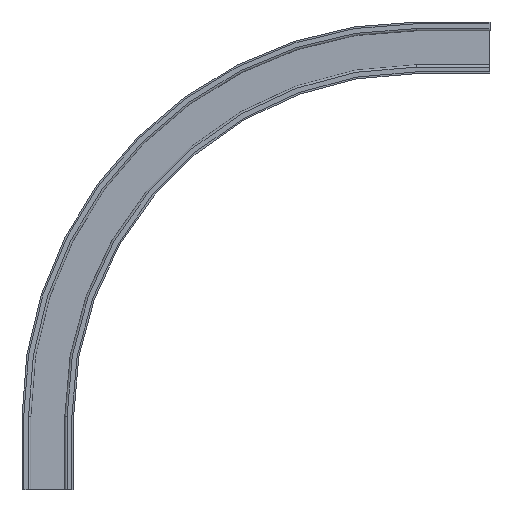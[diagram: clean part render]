
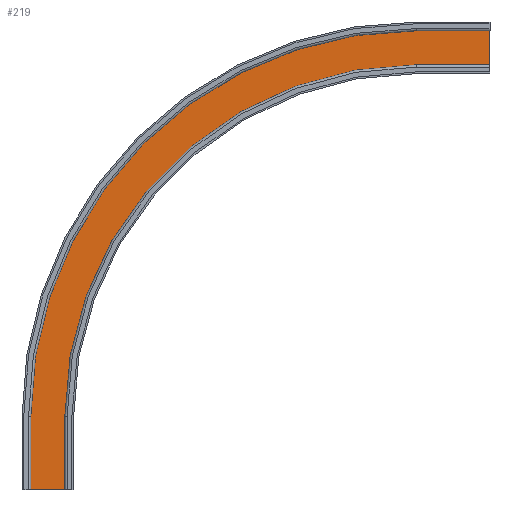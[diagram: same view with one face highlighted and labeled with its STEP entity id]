
A CAD part, front view. The second image highlights one B-rep face of the part: STEP entity #219.
In plain terms, the highlighted planar face has unit normal (0, -1, 0).
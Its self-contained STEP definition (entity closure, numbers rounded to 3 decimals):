
#219 = ADVANCED_FACE ( 'NONE', ( #6780 ), #1621, .F. ) ;
#578 = EDGE_CURVE ( 'NONE', #3233, #3170, #6594, .T. ) ;
#604 = EDGE_CURVE ( 'NONE', #3167, #3217, #6548, .T. ) ;
#608 = EDGE_CURVE ( 'NONE', #3136, #3163, #6540, .T. ) ;
#610 = EDGE_CURVE ( 'NONE', #3229, #3238, #6535, .T. ) ;
#616 = EDGE_CURVE ( 'NONE', #3170, #3229, #6524, .T. ) ;
#620 = EDGE_CURVE ( 'NONE', #3167, #3163, #6516, .T. ) ;
#660 = AXIS2_PLACEMENT_3D ( 'NONE', #1592, #1590, #1647 ) ;
#707 = AXIS2_PLACEMENT_3D ( 'NONE', #2905, #2904, #2902 ) ;
#719 = AXIS2_PLACEMENT_3D ( 'NONE', #2623, #2648, #2622 ) ;
#911 = CARTESIAN_POINT ( 'NONE',  ( -474.889, 246.202, 155.327 ) ) ;
#912 = DIRECTION ( 'NONE',  ( 0., 0., -1. ) ) ;
#1590 = DIRECTION ( 'NONE',  ( 0., 1., 0. ) ) ;
#1592 = CARTESIAN_POINT ( 'NONE',  ( -474.889, 246.202, 155.327 ) ) ;
#1621 = PLANE ( 'NONE',  #660 ) ;
#1647 = DIRECTION ( 'NONE',  ( -1., 0., 0. ) ) ;
#2018 = EDGE_CURVE ( 'NONE', #3217, #3238, #2419, .T. ) ;
#2221 = VECTOR ( 'NONE', #912, 1000. ) ;
#2222 = LINE ( 'NONE', #911, #2221 ) ;
#2418 = VECTOR ( 'NONE', #3796, 1000. ) ;
#2419 = LINE ( 'NONE', #3797, #2418 ) ;
#2622 = DIRECTION ( 'NONE',  ( 0., 0., 1. ) ) ;
#2623 = CARTESIAN_POINT ( 'NONE',  ( 54.611, 246.202, 155.327 ) ) ;
#2636 = DIRECTION ( 'NONE',  ( 1., 0., 0. ) ) ;
#2639 = CARTESIAN_POINT ( 'NONE',  ( 154.611, 246.202, 684.827 ) ) ;
#2648 = DIRECTION ( 'NONE',  ( 0., 1., 0. ) ) ;
#2653 = DIRECTION ( 'NONE',  ( 1., 0., 0. ) ) ;
#2655 = CARTESIAN_POINT ( 'NONE',  ( -474.889, 246.202, 55.327 ) ) ;
#2682 = DIRECTION ( 'NONE',  ( 0., 0., -1. ) ) ;
#2778 = CARTESIAN_POINT ( 'NONE',  ( -415.889, 246.202, 155.327 ) ) ;
#2779 = DIRECTION ( 'NONE',  ( 0., 0., -1. ) ) ;
#2902 = DIRECTION ( 'NONE',  ( 0., 0., 1. ) ) ;
#2904 = DIRECTION ( 'NONE',  ( 0., 1., 0. ) ) ;
#2905 = CARTESIAN_POINT ( 'NONE',  ( 54.611, 246.202, 155.327 ) ) ;
#2908 = CARTESIAN_POINT ( 'NONE',  ( 54.611, 246.202, 684.827 ) ) ;
#3136 = VERTEX_POINT ( 'NONE', #3500 ) ;
#3163 = VERTEX_POINT ( 'NONE', #3472 ) ;
#3167 = VERTEX_POINT ( 'NONE', #3466 ) ;
#3170 = VERTEX_POINT ( 'NONE', #3463 ) ;
#3217 = VERTEX_POINT ( 'NONE', #3413 ) ;
#3229 = VERTEX_POINT ( 'NONE', #3400 ) ;
#3233 = VERTEX_POINT ( 'NONE', #3396 ) ;
#3238 = VERTEX_POINT ( 'NONE', #3391 ) ;
#3391 = CARTESIAN_POINT ( 'NONE',  ( 154.611, 246.202, 625.827 ) ) ;
#3396 = CARTESIAN_POINT ( 'NONE',  ( -474.889, 246.202, 155.327 ) ) ;
#3400 = CARTESIAN_POINT ( 'NONE',  ( 154.611, 246.202, 684.827 ) ) ;
#3413 = CARTESIAN_POINT ( 'NONE',  ( 54.611, 246.202, 625.827 ) ) ;
#3463 = CARTESIAN_POINT ( 'NONE',  ( 54.611, 246.202, 684.827 ) ) ;
#3466 = CARTESIAN_POINT ( 'NONE',  ( -415.889, 246.202, 155.327 ) ) ;
#3472 = CARTESIAN_POINT ( 'NONE',  ( -415.889, 246.202, 55.327 ) ) ;
#3500 = CARTESIAN_POINT ( 'NONE',  ( -474.889, 246.202, 55.327 ) ) ;
#3796 = DIRECTION ( 'NONE',  ( 1., 0., 0. ) ) ;
#3797 = CARTESIAN_POINT ( 'NONE',  ( 54.611, 246.202, 625.827 ) ) ;
#4248 = EDGE_LOOP ( 'NONE', ( #4611, #4608, #4609, #5008, #4667, #4988, #5009, #4656 ) ) ;
#4608 = ORIENTED_EDGE ( 'NONE', *, *, #620, .F. ) ;
#4609 = ORIENTED_EDGE ( 'NONE', *, *, #604, .T. ) ;
#4611 = ORIENTED_EDGE ( 'NONE', *, *, #608, .T. ) ;
#4656 = ORIENTED_EDGE ( 'NONE', *, *, #5828, .T. ) ;
#4667 = ORIENTED_EDGE ( 'NONE', *, *, #610, .F. ) ;
#4988 = ORIENTED_EDGE ( 'NONE', *, *, #616, .F. ) ;
#5008 = ORIENTED_EDGE ( 'NONE', *, *, #2018, .T. ) ;
#5009 = ORIENTED_EDGE ( 'NONE', *, *, #578, .F. ) ;
#5828 = EDGE_CURVE ( 'NONE', #3233, #3136, #2222, .T. ) ;
#6514 = VECTOR ( 'NONE', #2779, 1000. ) ;
#6516 = LINE ( 'NONE', #2778, #6514 ) ;
#6521 = VECTOR ( 'NONE', #2636, 1000. ) ;
#6524 = LINE ( 'NONE', #2908, #6521 ) ;
#6533 = VECTOR ( 'NONE', #2682, 1000. ) ;
#6535 = LINE ( 'NONE', #2639, #6533 ) ;
#6539 = VECTOR ( 'NONE', #2653, 1000. ) ;
#6540 = LINE ( 'NONE', #2655, #6539 ) ;
#6548 = CIRCLE ( 'NONE', #719, 470.5 ) ;
#6594 = CIRCLE ( 'NONE', #707, 529.5 ) ;
#6780 = FACE_OUTER_BOUND ( 'NONE', #4248, .T. ) ;
